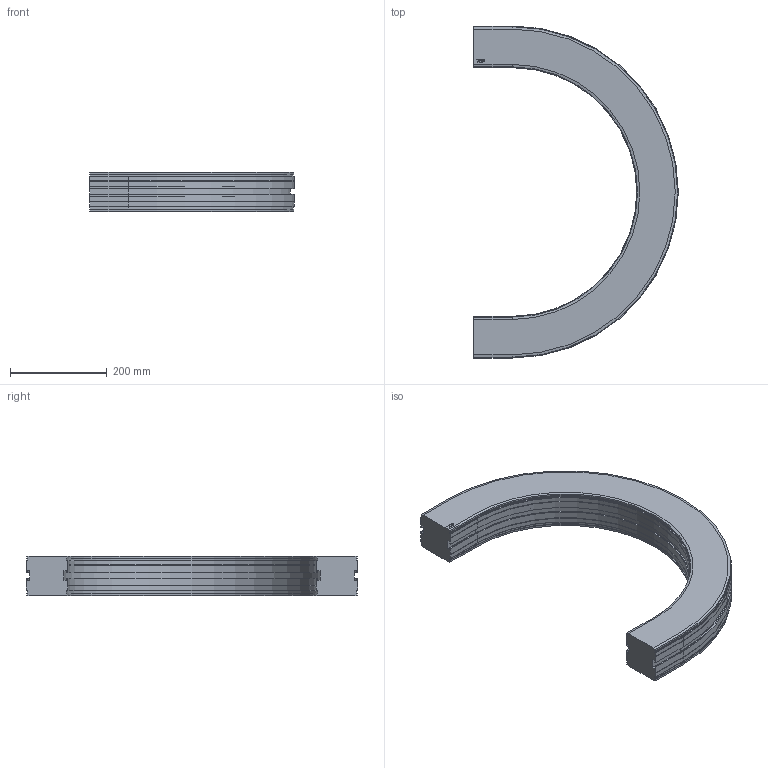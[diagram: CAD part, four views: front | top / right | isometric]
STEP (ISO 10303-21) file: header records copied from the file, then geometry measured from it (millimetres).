
FILE_DESCRIPTION((''),'2;1');
FILE_NAME('C:\Vault Klient\Projekt\Koncept konstruktion\Serie 830 Balk\830-5220.stp','2009-11-27T09:39:15',('Mathias'),(''),'Autodesk Inventor 2010','Autodesk Inventor 2010','');
FILE_SCHEMA(('AUTOMOTIVE_DESIGN { 1 0 10303 214 1 1 1 1 }'));
Length unit declared in the file: millimetre
Products named in the file (1): 830-5220
Bounding box: 423 x 686 x 81.5 mm (x, y, z)
Volume: 7328040.6 mm3; surface area: 463768.7 mm2
Topology: 1 solids, 1 shells, 169 faces, 446 edges, 284 vertices
Faces by surface type: plane 109, cylinder 30, bspline 14, cone 12, torus 4
Entity records: 5295 total; most frequent: CARTESIAN_POINT 1094, ORIENTED_EDGE 892, DIRECTION 802, EDGE_CURVE 446, VECTOR 346, LINE 346, VERTEX_POINT 284, AXIS2_PLACEMENT_3D 228
